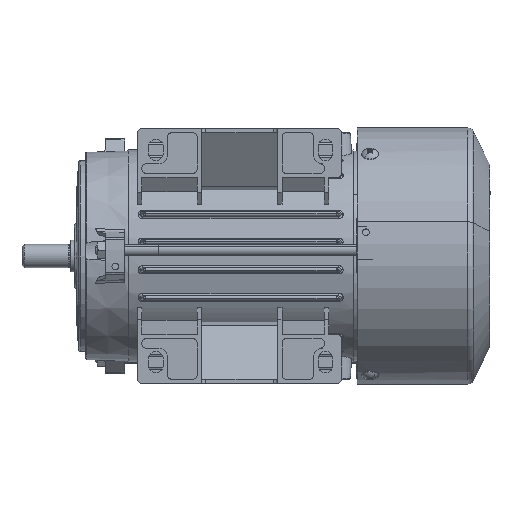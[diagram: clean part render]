
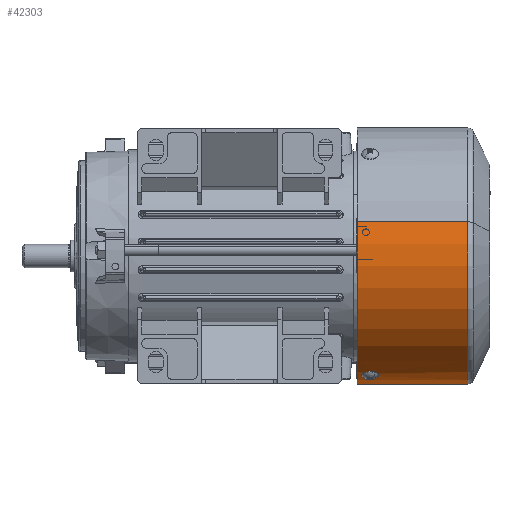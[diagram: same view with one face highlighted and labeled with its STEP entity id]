
A CAD part, front view. The second image highlights one B-rep face of the part: STEP entity #42303.
In plain terms, the highlighted cylindrical face has radius 60.5 mm (diameter 121 mm), a partial arc.
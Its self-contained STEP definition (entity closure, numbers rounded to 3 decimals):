
#1129 = CARTESIAN_POINT ( 'NONE',  ( 60.5, 62.5, 0. ) ) ;
#1158 = VERTEX_POINT ( 'NONE', #78861 ) ;
#2171 = DIRECTION ( 'NONE',  ( 0., 1., 0. ) ) ;
#2456 = B_SPLINE_CURVE_WITH_KNOTS ( 'NONE', 3,
 ( #73580, #24913, #87759, #46193, #4628, #53167, #11575, #60164, #18568, #67146, #25521, #74165, #32517, #81145, #39529, #88054, #46492, #4933, #53462, #11872, #60475, #18840, #67453, #25821, #74472, #32811, #81431, #39829, #88336, #46790 ),
 .UNSPECIFIED., .F., .F.,
 ( 4, 2, 2, 2, 2, 2, 2, 2, 2, 2, 2, 2, 2, 2, 4 ),
 ( 0., 0., 0.001, 0.001, 0.002, 0.002, 0.003, 0.004, 0.004, 0.004, 0.005, 0.005, 0.005, 0.006, 0.006 ),
 .UNSPECIFIED. ) ;
#2987 = EDGE_LOOP ( 'NONE', ( #49212, #37445 ) ) ;
#3780 = DIRECTION ( 'NONE',  ( 0., 1., 0. ) ) ;
#4600 = CARTESIAN_POINT ( 'NONE',  ( -9.105, 57.505, -59.811 ) ) ;
#4610 = ORIENTED_EDGE ( 'NONE', *, *, #54765, .F. ) ;
#4628 = CARTESIAN_POINT ( 'NONE',  ( -5.486, 55.855, -60.251 ) ) ;
#4899 = CARTESIAN_POINT ( 'NONE',  ( -6.734, 58.398, -60.124 ) ) ;
#4933 = CARTESIAN_POINT ( 'NONE',  ( -8.251, 54.702, -59.935 ) ) ;
#8806 = CARTESIAN_POINT ( 'NONE',  ( 0., 139.861, 0. ) ) ;
#10732 = ORIENTED_EDGE ( 'NONE', *, *, #47196, .F. ) ;
#11538 = CARTESIAN_POINT ( 'NONE',  ( -8.685, 58.005, -59.874 ) ) ;
#11575 = CARTESIAN_POINT ( 'NONE',  ( -5.647, 55.498, -60.236 ) ) ;
#11839 = CARTESIAN_POINT ( 'NONE',  ( -6.379, 58.237, -60.163 ) ) ;
#11872 = CARTESIAN_POINT ( 'NONE',  ( -8.582, 54.909, -59.888 ) ) ;
#14065 = EDGE_CURVE ( 'NONE', #89647, #87269, #40659, .T. ) ;
#14138 = LINE ( 'NONE', #16510, #83697 ) ;
#15009 = CIRCLE ( 'NONE', #38698, 60.5 ) ;
#16510 = CARTESIAN_POINT ( 'NONE',  ( -60.5, 139.861, 0. ) ) ;
#16607 = DIRECTION ( 'NONE',  ( 0., 1., 0. ) ) ;
#18536 = CARTESIAN_POINT ( 'NONE',  ( -8.367, 58.235, -59.919 ) ) ;
#18568 = CARTESIAN_POINT ( 'NONE',  ( -5.876, 55.178, -60.214 ) ) ;
#18816 = CARTESIAN_POINT ( 'NONE',  ( -6.06, 58.007, -60.196 ) ) ;
#18840 = CARTESIAN_POINT ( 'NONE',  ( -8.867, 55.179, -59.847 ) ) ;
#24913 = CARTESIAN_POINT ( 'NONE',  ( -5.384, 56.368, -60.26 ) ) ;
#25487 = CARTESIAN_POINT ( 'NONE',  ( -8.014, 58.397, -59.967 ) ) ;
#25521 = CARTESIAN_POINT ( 'NONE',  ( -6.373, 54.752, -60.164 ) ) ;
#25790 = CARTESIAN_POINT ( 'NONE',  ( -5.794, 57.722, -60.222 ) ) ;
#25821 = CARTESIAN_POINT ( 'NONE',  ( -9.092, 55.497, -59.813 ) ) ;
#27209 = CARTESIAN_POINT ( 'NONE',  ( 60.5, 10.474, 0. ) ) ;
#32196 = CARTESIAN_POINT ( 'NONE',  ( -9.354, 56.761, -59.772 ) ) ;
#32490 = CARTESIAN_POINT ( 'NONE',  ( -7.634, 58.487, -60.017 ) ) ;
#32517 = CARTESIAN_POINT ( 'NONE',  ( -7.113, 54.5, -60.081 ) ) ;
#32778 = CARTESIAN_POINT ( 'NONE',  ( -5.586, 57.388, -60.242 ) ) ;
#32811 = CARTESIAN_POINT ( 'NONE',  ( -9.253, 55.856, -59.788 ) ) ;
#35069 = ORIENTED_EDGE ( 'NONE', *, *, #67287, .T. ) ;
#37110 = EDGE_CURVE ( 'NONE', #87269, #89647, #2456, .T. ) ;
#37445 = ORIENTED_EDGE ( 'NONE', *, *, #14065, .F. ) ;
#38353 = CARTESIAN_POINT ( 'NONE',  ( 60.5, 139.861, 0. ) ) ;
#38698 = AXIS2_PLACEMENT_3D ( 'NONE', #58190, #16607, #65193 ) ;
#39268 = CARTESIAN_POINT ( 'NONE',  ( 0., 62.5, 0. ) ) ;
#39498 = CARTESIAN_POINT ( 'NONE',  ( -7.244, 58.5, -60.065 ) ) ;
#39529 = CARTESIAN_POINT ( 'NONE',  ( -7.633, 54.513, -60.017 ) ) ;
#39796 = CARTESIAN_POINT ( 'NONE',  ( -5.384, 56.764, -60.26 ) ) ;
#39829 = CARTESIAN_POINT ( 'NONE',  ( -9.341, 56.237, -59.775 ) ) ;
#40659 = B_SPLINE_CURVE_WITH_KNOTS ( 'NONE', 3,
 ( #87727, #32196, #66817, #4600, #53137, #11538, #60131, #18536, #67116, #25487, #74134, #32490, #81110, #39498, #88025, #46459, #4899, #53433, #11839, #60438, #18816, #67418, #25790, #74441, #32778, #81404, #39796, #88312 ),
 .UNSPECIFIED., .F., .F.,
 ( 4, 2, 2, 2, 2, 2, 2, 2, 2, 2, 2, 2, 2, 4 ),
 ( 0.006, 0.007, 0.008, 0.008, 0.009, 0.009, 0.009, 0.01, 0.01, 0.011, 0.011, 0.011, 0.012, 0.013 ),
 .UNSPECIFIED. ) ;
#42303 = ADVANCED_FACE ( 'NONE', ( #79675, #44873 ), #58998, .T. ) ;
#42654 = VERTEX_POINT ( 'NONE', #27209 ) ;
#44873 = FACE_BOUND ( 'NONE', #2987, .T. ) ;
#46193 = CARTESIAN_POINT ( 'NONE',  ( -5.448, 55.982, -60.254 ) ) ;
#46220 = DIRECTION ( 'NONE',  ( -1., 0., 0. ) ) ;
#46459 = CARTESIAN_POINT ( 'NONE',  ( -6.86, 58.437, -60.11 ) ) ;
#46492 = CARTESIAN_POINT ( 'NONE',  ( -8.011, 54.602, -59.967 ) ) ;
#46790 = CARTESIAN_POINT ( 'NONE',  ( -9.354, 56.5, -59.772 ) ) ;
#47196 = EDGE_CURVE ( 'NONE', #58671, #1158, #78023, .T. ) ;
#49212 = ORIENTED_EDGE ( 'NONE', *, *, #37110, .F. ) ;
#49270 = VECTOR ( 'NONE', #3780, 1000. ) ;
#53137 = CARTESIAN_POINT ( 'NONE',  ( -8.958, 57.729, -59.833 ) ) ;
#53167 = CARTESIAN_POINT ( 'NONE',  ( -5.586, 55.613, -60.242 ) ) ;
#53433 = CARTESIAN_POINT ( 'NONE',  ( -6.493, 58.298, -60.151 ) ) ;
#53462 = CARTESIAN_POINT ( 'NONE',  ( -8.367, 54.765, -59.919 ) ) ;
#54765 = EDGE_CURVE ( 'NONE', #42654, #58671, #86196, .T. ) ;
#56368 = AXIS2_PLACEMENT_3D ( 'NONE', #39268, #87796, #46220 ) ;
#56611 = AXIS2_PLACEMENT_3D ( 'NONE', #8806, #2171, #78349 ) ;
#57219 = EDGE_CURVE ( 'NONE', #81624, #1158, #14138, .T. ) ;
#58190 = CARTESIAN_POINT ( 'NONE',  ( 0., 10.474, 0. ) ) ;
#58671 = VERTEX_POINT ( 'NONE', #1129 ) ;
#58998 = CYLINDRICAL_SURFACE ( 'NONE', #56611, 60.5 ) ;
#60131 = CARTESIAN_POINT ( 'NONE',  ( -8.583, 58.09, -59.888 ) ) ;
#60164 = CARTESIAN_POINT ( 'NONE',  ( -5.792, 55.281, -60.222 ) ) ;
#60438 = CARTESIAN_POINT ( 'NONE',  ( -6.163, 58.092, -60.185 ) ) ;
#60475 = CARTESIAN_POINT ( 'NONE',  ( -8.682, 54.992, -59.874 ) ) ;
#62106 = EDGE_LOOP ( 'NONE', ( #4610, #35069, #75399, #10732 ) ) ;
#65193 = DIRECTION ( 'NONE',  ( -1., 0., 0. ) ) ;
#66817 = CARTESIAN_POINT ( 'NONE',  ( -9.302, 57.024, -59.781 ) ) ;
#67116 = CARTESIAN_POINT ( 'NONE',  ( -8.254, 58.297, -59.934 ) ) ;
#67146 = CARTESIAN_POINT ( 'NONE',  ( -6.151, 54.901, -60.187 ) ) ;
#67287 = EDGE_CURVE ( 'NONE', #42654, #81624, #15009, .T. ) ;
#67418 = CARTESIAN_POINT ( 'NONE',  ( -5.876, 57.823, -60.214 ) ) ;
#67453 = CARTESIAN_POINT ( 'NONE',  ( -8.949, 55.28, -59.835 ) ) ;
#69692 = CARTESIAN_POINT ( 'NONE',  ( -60.5, 10.474, 0. ) ) ;
#73580 = CARTESIAN_POINT ( 'NONE',  ( -5.384, 56.5, -60.26 ) ) ;
#74134 = CARTESIAN_POINT ( 'NONE',  ( -7.888, 58.436, -59.984 ) ) ;
#74165 = CARTESIAN_POINT ( 'NONE',  ( -6.852, 54.553, -60.111 ) ) ;
#74441 = CARTESIAN_POINT ( 'NONE',  ( -5.648, 57.504, -60.236 ) ) ;
#74472 = CARTESIAN_POINT ( 'NONE',  ( -9.154, 55.614, -59.803 ) ) ;
#75399 = ORIENTED_EDGE ( 'NONE', *, *, #57219, .T. ) ;
#75808 = CARTESIAN_POINT ( 'NONE',  ( -9.354, 56.5, -59.772 ) ) ;
#76962 = CARTESIAN_POINT ( 'NONE',  ( -5.384, 56.5, -60.26 ) ) ;
#78023 = CIRCLE ( 'NONE', #56368, 60.5 ) ;
#78349 = DIRECTION ( 'NONE',  ( -1., 0., 0. ) ) ;
#78861 = CARTESIAN_POINT ( 'NONE',  ( -60.5, 62.5, 0. ) ) ;
#79675 = FACE_OUTER_BOUND ( 'NONE', #62106, .T. ) ;
#81110 = CARTESIAN_POINT ( 'NONE',  ( -7.506, 58.5, -60.033 ) ) ;
#81145 = CARTESIAN_POINT ( 'NONE',  ( -7.502, 54.5, -60.033 ) ) ;
#81404 = CARTESIAN_POINT ( 'NONE',  ( -5.437, 57.027, -60.255 ) ) ;
#81431 = CARTESIAN_POINT ( 'NONE',  ( -9.291, 55.981, -59.782 ) ) ;
#81624 = VERTEX_POINT ( 'NONE', #69692 ) ;
#83697 = VECTOR ( 'NONE', #86032, 1000. ) ;
#86032 = DIRECTION ( 'NONE',  ( 0., 1., 0. ) ) ;
#86196 = LINE ( 'NONE', #38353, #49270 ) ;
#87269 = VERTEX_POINT ( 'NONE', #76962 ) ;
#87727 = CARTESIAN_POINT ( 'NONE',  ( -9.354, 56.5, -59.772 ) ) ;
#87759 = CARTESIAN_POINT ( 'NONE',  ( -5.397, 56.238, -60.259 ) ) ;
#87796 = DIRECTION ( 'NONE',  ( 0., 1., 0. ) ) ;
#88025 = CARTESIAN_POINT ( 'NONE',  ( -7.114, 58.487, -60.08 ) ) ;
#88054 = CARTESIAN_POINT ( 'NONE',  ( -7.888, 54.564, -59.984 ) ) ;
#88312 = CARTESIAN_POINT ( 'NONE',  ( -5.384, 56.5, -60.26 ) ) ;
#88336 = CARTESIAN_POINT ( 'NONE',  ( -9.354, 56.369, -59.772 ) ) ;
#89647 = VERTEX_POINT ( 'NONE', #75808 ) ;
